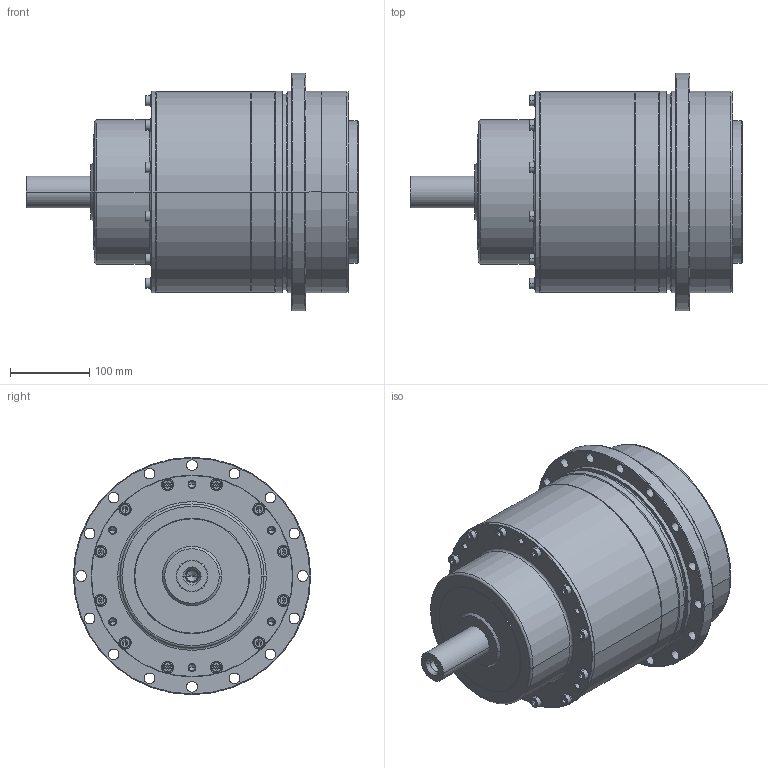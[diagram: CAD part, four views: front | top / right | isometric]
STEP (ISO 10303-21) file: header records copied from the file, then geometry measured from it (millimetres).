
FILE_DESCRIPTION((''),'2;1');
FILE_NAME('ADS255-2_ASM','2007-05-28T',('D00204'),(''),'PRO/ENGINEER BY PARAMETRIC TECHNOLOGY CORPORATION, 2006170','PRO/ENGINEER BY PARAMETRIC TECHNOLOGY CORPORATION, 2006170','');
FILE_SCHEMA(('CONFIG_CONTROL_DESIGN'));
Length unit declared in the file: millimetre
Products named in the file (6): ADS255-2; PK670001; 233100005; 220100812; COVER-SET2-ADS-7_ASM; ADS255-2_ASM
Assembly tree (27 placements, depth 3):
  ADS255-2_ASM
    ADS255-2
    COVER-SET2-ADS-7_ASM
      PK670001
      233100005  x12
      220100812  x12
Bounding box: 419.5 x 300 x 300 mm (x, y, z)
Volume: 11918496.3 mm3; surface area: 728476.7 mm2
Topology: 26 solids, 57 shells, 945 faces, 2092 edges, 1246 vertices
Faces by surface type: cylinder 406, plane 275, cone 214, torus 50
Entity records: 15302 total; most frequent: DIRECTION 3054, CARTESIAN_POINT 2541, ORIENTED_EDGE 2216, AXIS2_PLACEMENT_3D 1301, EDGE_CURVE 1170, VERTEX_POINT 740, CIRCLE 712, EDGE_LOOP 674
